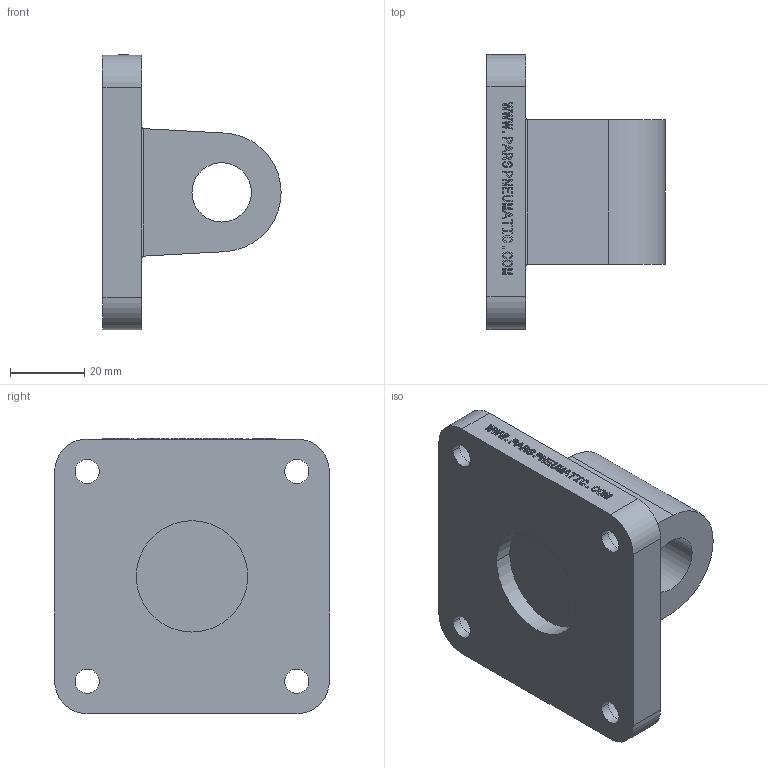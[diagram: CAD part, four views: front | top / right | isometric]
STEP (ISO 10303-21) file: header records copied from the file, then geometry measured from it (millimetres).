
FILE_DESCRIPTION(('CATIA V5 STEP Exchange'),'2;1');
FILE_NAME('D:\stp file for catalog\BAST-CA\CA 63.stp','2018-06-13T05:57:37+00:00',('none'),('none'),'CATIA Version 5-6 Release 2016','CATIA V5 STEP AP203','none');
FILE_SCHEMA(('CONFIG_CONTROL_DESIGN'));
Length unit declared in the file: millimetre
Products named in the file (1): PNC-CA 63-01
Bounding box: 48 x 74 x 74.2 mm (x, y, z)
Volume: 85038.6 mm3; surface area: 21501.5 mm2
Topology: 1 solids, 1 shells, 470 faces, 1305 edges, 870 vertices
Faces by surface type: plane 441, cylinder 29
Entity records: 14231 total; most frequent: ORIENTED_EDGE 2610, CARTESIAN_POINT 2567, DIRECTION 2015, EDGE_CURVE 1305, VECTOR 1247, LINE 1247, VERTEX_POINT 870, EDGE_LOOP 513
